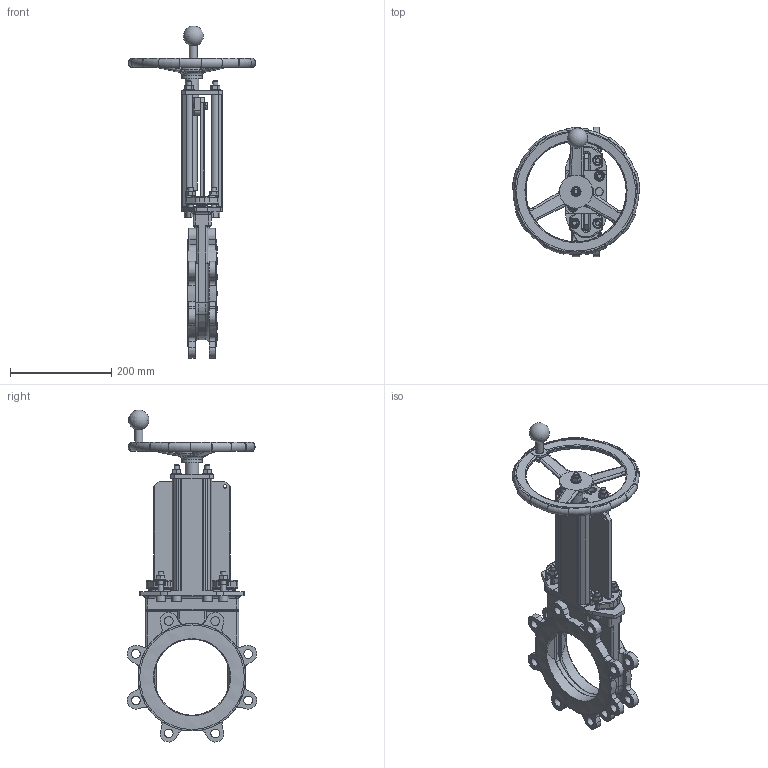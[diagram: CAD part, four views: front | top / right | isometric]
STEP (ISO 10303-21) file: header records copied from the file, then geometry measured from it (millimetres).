
FILE_DESCRIPTION(/* description */ (''),/* implementation_level */ '2;1');
FILE_NAME(/* name */ 'F:\Emir\3D-block special\WB\WB14E-DN150-PN10-HW_Shrinkwrap_1.stp',/* time_stamp */ '2018-09-12T11:32:32+02:00',/* author */ ('emimus'),/* organization */ (''),/* preprocessor_version */ 'ST-DEVELOPER v17.2',/* originating_system */ 'Autodesk Inventor 2019',/* authorisation */ '');
FILE_SCHEMA (('CONFIG_CONTROL_DESIGN'));
Length unit declared in the file: millimetre
Products named in the file (1): WB14E-DN150-PN10-HW_Shrinkwrap_1
Bounding box: 251.79 x 255.71 x 655.21 mm (x, y, z)
Volume: 2553252.2 mm3; surface area: 668135.2 mm2
Topology: 1 solids, 1 shells, 1364 faces, 3586 edges, 2258 vertices
Faces by surface type: plane 595, cylinder 411, torus 137, bspline 123, cone 85, sphere 13
Full cylindrical faces by diameter (mm): 6.75 x2, 7 x1, 8.376 x5, 10 x25, 10.5 x8, 11 x4, 11.63 x2, 13 x2, 15 x1, 15.5 x1, 16 x3, 17.294 x16, 20 x10, 27 x2, 40 x1, 150 x2, 152.3 x1, 206.3 x1, 212 x2, 235 x1
Entity records: 45344 total; most frequent: CARTESIAN_POINT 11969, ORIENTED_EDGE 7152, DIRECTION 6931, EDGE_CURVE 3576, AXIS2_PLACEMENT_3D 2598, VERTEX_POINT 2258, LINE 1735, VECTOR 1735
